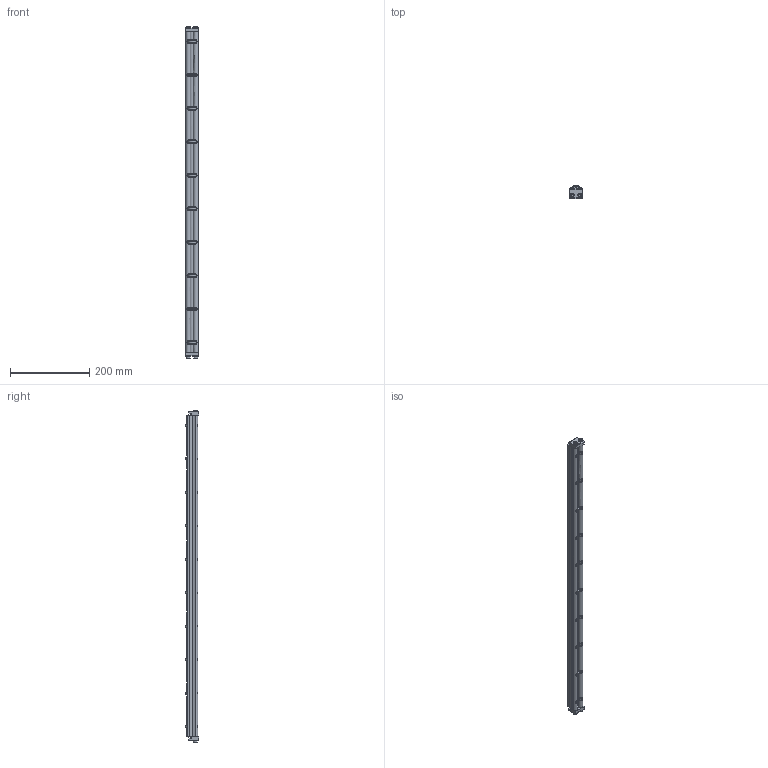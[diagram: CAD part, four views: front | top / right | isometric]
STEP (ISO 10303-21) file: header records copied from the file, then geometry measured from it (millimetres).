
FILE_DESCRIPTION((''),'2;1');
FILE_NAME('324932_ASM','2023-03-14T',('jenni.wallner'),(''),'PRO/ENGINEER BY PARAMETRIC TECHNOLOGY CORPORATION, 2012420','PRO/ENGINEER BY PARAMETRIC TECHNOLOGY CORPORATION, 2012420','');
FILE_SCHEMA(('CONFIG_CONTROL_DESIGN'));
Length unit declared in the file: inch
Products named in the file (7): 2410WW_CAE_241032; X920693M; 240826; 2436WW_243632; 240827_CAE; ASM0001_ASM; 324932_ASM
Assembly tree (19 placements, depth 3):
  324932_ASM
    ASM0001_ASM
      2410WW_CAE_241032
      X920693M  x4
      240826  x10
      2436WW_243632
      240827_CAE  x2
Bounding box: 30.88 x 33.34 x 840.21 mm (x, y, z)
Volume: 399633.2 mm3; surface area: 237466 mm2
Topology: 18 solids, 18 shells, 622 faces, 1760 edges, 1162 vertices
Faces by surface type: cylinder 284, plane 214, cone 84, torus 40
Entity records: 15217 total; most frequent: CARTESIAN_POINT 4043, ORIENTED_EDGE 2464, DIRECTION 2258, EDGE_CURVE 1232, AXIS2_PLACEMENT_3D 842, VERTEX_POINT 822, VECTOR 574, LINE 574
